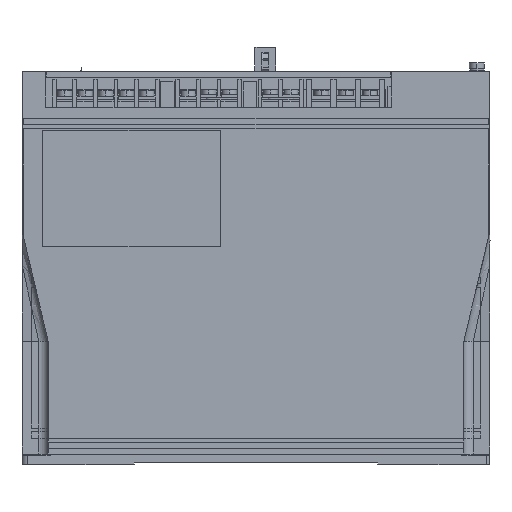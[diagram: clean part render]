
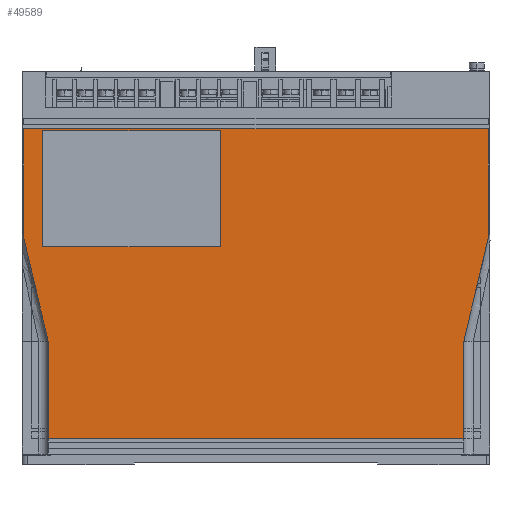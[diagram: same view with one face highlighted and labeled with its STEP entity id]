
A CAD part, left-side view. The second image highlights one B-rep face of the part: STEP entity #49589.
In plain terms, the highlighted planar face has unit normal (-1, 0, 0).
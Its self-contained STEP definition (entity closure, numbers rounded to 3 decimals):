
#8652 = CARTESIAN_POINT ( 'NONE',  ( -4.7, 5., 179.5 ) ) ;
#8653 = DIRECTION ( 'NONE',  ( 0., 0., -1. ) ) ;
#8654 = VECTOR ( 'NONE', #8653, 1000. ) ;
#8655 = CARTESIAN_POINT ( 'NONE',  ( -4.7, 5., 14.1 ) ) ;
#8656 = LINE ( 'NONE', #8655, #8654 ) ;
#8696 = DIRECTION ( 'NONE',  ( 0., -1., 0. ) ) ;
#8697 = VECTOR ( 'NONE', #8696, 1000. ) ;
#8698 = CARTESIAN_POINT ( 'NONE',  ( -4.7, 5., 14.1 ) ) ;
#8699 = LINE ( 'NONE', #8698, #8697 ) ;
#8715 = AXIS2_PLACEMENT_3D ( 'NONE', #8779, #8778, #8777 ) ;
#8716 = PLANE ( 'NONE',  #8715 ) ;
#8717 = FACE_OUTER_BOUND ( 'NONE', #49577, .T. ) ;
#8718 = FACE_BOUND ( 'NONE', #49590, .T. ) ;
#8719 = DIRECTION ( 'NONE',  ( 0., 0., 1. ) ) ;
#8720 = VECTOR ( 'NONE', #8719, 1000. ) ;
#8721 = CARTESIAN_POINT ( 'NONE',  ( -4.7, -243., 14.1 ) ) ;
#8722 = LINE ( 'NONE', #8721, #8720 ) ;
#8723 = CARTESIAN_POINT ( 'NONE',  ( -4.7, -243., 179.5 ) ) ;
#8724 = DIRECTION ( 'NONE',  ( 0., 1., 0. ) ) ;
#8725 = VECTOR ( 'NONE', #8724, 1000. ) ;
#8726 = CARTESIAN_POINT ( 'NONE',  ( -4.7, 5., 179.5 ) ) ;
#8727 = LINE ( 'NONE', #8726, #8725 ) ;
#8728 = DIRECTION ( 'NONE',  ( 0., 0., 1. ) ) ;
#8729 = VECTOR ( 'NONE', #8728, 1000. ) ;
#8730 = CARTESIAN_POINT ( 'NONE',  ( -4.7, -100., 179.5 ) ) ;
#8731 = LINE ( 'NONE', #8730, #8729 ) ;
#8732 = CARTESIAN_POINT ( 'NONE',  ( -4.7, -100., 178.5 ) ) ;
#8762 = DIRECTION ( 'NONE',  ( 0., 1., 0. ) ) ;
#8763 = VECTOR ( 'NONE', #8762, 1000. ) ;
#8764 = CARTESIAN_POINT ( 'NONE',  ( -4.7, 5., 178.5 ) ) ;
#8765 = LINE ( 'NONE', #8764, #8763 ) ;
#8766 = CARTESIAN_POINT ( 'NONE',  ( -4.7, -5., 178.5 ) ) ;
#8767 = DIRECTION ( 'NONE',  ( 0., 0., -1. ) ) ;
#8768 = VECTOR ( 'NONE', #8767, 1000. ) ;
#8769 = CARTESIAN_POINT ( 'NONE',  ( -4.7, -5., 179.5 ) ) ;
#8770 = LINE ( 'NONE', #8769, #8768 ) ;
#8771 = CARTESIAN_POINT ( 'NONE',  ( -4.7, -100., 116.5 ) ) ;
#8772 = CARTESIAN_POINT ( 'NONE',  ( -4.7, -5., 116.5 ) ) ;
#8773 = DIRECTION ( 'NONE',  ( 0., -1., 0. ) ) ;
#8774 = VECTOR ( 'NONE', #8773, 1000. ) ;
#8775 = CARTESIAN_POINT ( 'NONE',  ( -4.7, 5., 116.5 ) ) ;
#8776 = LINE ( 'NONE', #8775, #8774 ) ;
#8777 = DIRECTION ( 'NONE',  ( 0., -1., 0. ) ) ;
#8778 = DIRECTION ( 'NONE',  ( -1., 0., 0. ) ) ;
#8779 = CARTESIAN_POINT ( 'NONE',  ( -4.7, 5., 179.5 ) ) ;
#29980 = CARTESIAN_POINT ( 'NONE',  ( -4.7, -8., 14.1 ) ) ;
#30034 = CARTESIAN_POINT ( 'NONE',  ( -4.7, -8., 66. ) ) ;
#30035 = DIRECTION ( 'NONE',  ( 0., 0., -1. ) ) ;
#30036 = VECTOR ( 'NONE', #30035, 1000. ) ;
#30037 = CARTESIAN_POINT ( 'NONE',  ( -4.7, -8., 66. ) ) ;
#30038 = LINE ( 'NONE', #30037, #30036 ) ;
#30166 = CARTESIAN_POINT ( 'NONE',  ( -4.7, -230., 14.1 ) ) ;
#30167 = DIRECTION ( 'NONE',  ( 0., 0., -1. ) ) ;
#30168 = VECTOR ( 'NONE', #30167, 1000. ) ;
#30169 = CARTESIAN_POINT ( 'NONE',  ( -4.7, -230., 66. ) ) ;
#30170 = LINE ( 'NONE', #30169, #30168 ) ;
#30171 = CARTESIAN_POINT ( 'NONE',  ( -4.7, -230., 66. ) ) ;
#32596 = CARTESIAN_POINT ( 'NONE',  ( -4.7, 5., 120.786 ) ) ;
#32597 = DIRECTION ( 'NONE',  ( 0., -0.231, -0.973 ) ) ;
#32598 = VECTOR ( 'NONE', #32597, 1000. ) ;
#32599 = CARTESIAN_POINT ( 'NONE',  ( -4.7, 6., 125. ) ) ;
#32600 = LINE ( 'NONE', #32599, #32598 ) ;
#32605 = CARTESIAN_POINT ( 'NONE',  ( -4.7, -243., 120.786 ) ) ;
#32659 = DIRECTION ( 'NONE',  ( 0., -0.231, 0.973 ) ) ;
#32660 = VECTOR ( 'NONE', #32659, 1000. ) ;
#32661 = CARTESIAN_POINT ( 'NONE',  ( -4.7, -244., 125. ) ) ;
#32662 = LINE ( 'NONE', #32661, #32660 ) ;
#45492 = VERTEX_POINT ( 'NONE', #29980 ) ;
#45496 = EDGE_CURVE ( 'NONE', #45498, #45492, #30038, .T. ) ;
#45498 = VERTEX_POINT ( 'NONE', #30034 ) ;
#45597 = VERTEX_POINT ( 'NONE', #30171 ) ;
#45599 = EDGE_CURVE ( 'NONE', #45597, #45600, #30170, .T. ) ;
#45600 = VERTEX_POINT ( 'NONE', #30166 ) ;
#47121 = EDGE_CURVE ( 'NONE', #47122, #45498, #32600, .T. ) ;
#47122 = VERTEX_POINT ( 'NONE', #32596 ) ;
#47155 = VERTEX_POINT ( 'NONE', #32605 ) ;
#47157 = EDGE_CURVE ( 'NONE', #45597, #47155, #32662, .T. ) ;
#49523 = EDGE_CURVE ( 'NONE', #49524, #47122, #8656, .T. ) ;
#49524 = VERTEX_POINT ( 'NONE', #8652 ) ;
#49543 = EDGE_CURVE ( 'NONE', #45492, #45600, #8699, .T. ) ;
#49561 = ORIENTED_EDGE ( 'NONE', *, *, #49523, .T. ) ;
#49562 = ORIENTED_EDGE ( 'NONE', *, *, #47121, .T. ) ;
#49574 = VERTEX_POINT ( 'NONE', #8732 ) ;
#49575 = ORIENTED_EDGE ( 'NONE', *, *, #49576, .F. ) ;
#49576 = EDGE_CURVE ( 'NONE', #49594, #49574, #8731, .T. ) ;
#49577 = EDGE_LOOP ( 'NONE', ( #49578, #49579, #49580, #49581, #49582, #49583, #49561, #49562 ) ) ;
#49578 = ORIENTED_EDGE ( 'NONE', *, *, #45496, .T. ) ;
#49579 = ORIENTED_EDGE ( 'NONE', *, *, #49543, .T. ) ;
#49580 = ORIENTED_EDGE ( 'NONE', *, *, #45599, .F. ) ;
#49581 = ORIENTED_EDGE ( 'NONE', *, *, #47157, .T. ) ;
#49582 = ORIENTED_EDGE ( 'NONE', *, *, #49587, .T. ) ;
#49583 = ORIENTED_EDGE ( 'NONE', *, *, #49584, .T. ) ;
#49584 = EDGE_CURVE ( 'NONE', #49585, #49524, #8727, .T. ) ;
#49585 = VERTEX_POINT ( 'NONE', #8723 ) ;
#49587 = EDGE_CURVE ( 'NONE', #47155, #49585, #8722, .T. ) ;
#49589 = ADVANCED_FACE ( 'NONE', ( #8718, #8717 ), #8716, .T. ) ;
#49590 = EDGE_LOOP ( 'NONE', ( #49591, #49595, #49598, #49575 ) ) ;
#49591 = ORIENTED_EDGE ( 'NONE', *, *, #49592, .F. ) ;
#49592 = EDGE_CURVE ( 'NONE', #49593, #49594, #8776, .T. ) ;
#49593 = VERTEX_POINT ( 'NONE', #8772 ) ;
#49594 = VERTEX_POINT ( 'NONE', #8771 ) ;
#49595 = ORIENTED_EDGE ( 'NONE', *, *, #49596, .F. ) ;
#49596 = EDGE_CURVE ( 'NONE', #49597, #49593, #8770, .T. ) ;
#49597 = VERTEX_POINT ( 'NONE', #8766 ) ;
#49598 = ORIENTED_EDGE ( 'NONE', *, *, #49599, .F. ) ;
#49599 = EDGE_CURVE ( 'NONE', #49574, #49597, #8765, .T. ) ;
